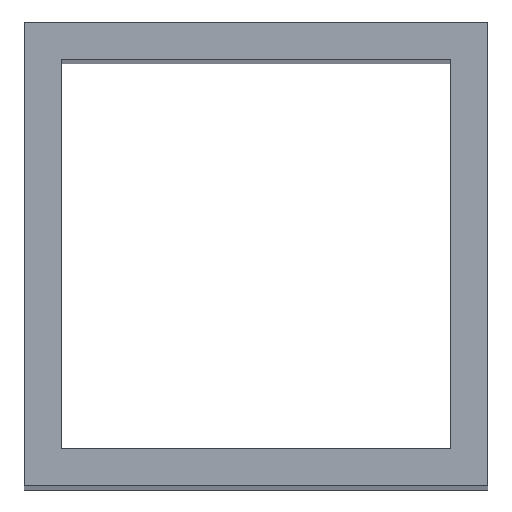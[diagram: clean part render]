
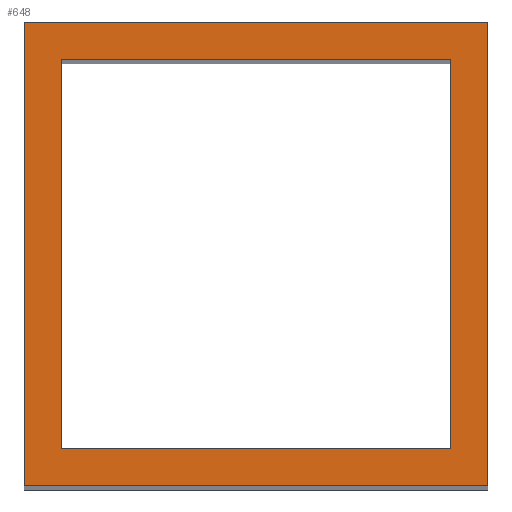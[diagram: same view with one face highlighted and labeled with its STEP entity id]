
A CAD part, top view. The second image highlights one B-rep face of the part: STEP entity #648.
In plain terms, the highlighted planar face has unit normal (0, 0, 1).
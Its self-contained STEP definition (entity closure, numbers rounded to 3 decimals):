
#24 = VERTEX_POINT('',#25);
#25 = CARTESIAN_POINT('',(-75.,-75.,850.));
#32 = PLANE('',#33);
#33 = AXIS2_PLACEMENT_3D('',#34,#35,#36);
#34 = CARTESIAN_POINT('',(-75.,-75.,0.));
#35 = DIRECTION('',(0.,1.,0.));
#36 = DIRECTION('',(1.,0.,0.));
#44 = PLANE('',#45);
#45 = AXIS2_PLACEMENT_3D('',#46,#47,#48);
#46 = CARTESIAN_POINT('',(-75.,75.,0.));
#47 = DIRECTION('',(1.,0.,-0.));
#48 = DIRECTION('',(0.,-1.,0.));
#56 = EDGE_CURVE('',#24,#57,#59,.T.);
#57 = VERTEX_POINT('',#58);
#58 = CARTESIAN_POINT('',(75.,-75.,850.));
#59 = SURFACE_CURVE('',#60,(#64,#71),.PCURVE_S1.);
#60 = LINE('',#61,#62);
#61 = CARTESIAN_POINT('',(-75.,-75.,850.));
#62 = VECTOR('',#63,1.);
#63 = DIRECTION('',(1.,0.,0.));
#64 = PCURVE('',#32,#65);
#65 = DEFINITIONAL_REPRESENTATION('',(#66),#70);
#66 = LINE('',#67,#68);
#67 = CARTESIAN_POINT('',(0.,-850.));
#68 = VECTOR('',#69,1.);
#69 = DIRECTION('',(1.,0.));
#70 = ( GEOMETRIC_REPRESENTATION_CONTEXT(2) 
PARAMETRIC_REPRESENTATION_CONTEXT() REPRESENTATION_CONTEXT('2D SPACE',''
  ) );
#71 = PCURVE('',#72,#77);
#72 = PLANE('',#73);
#73 = AXIS2_PLACEMENT_3D('',#74,#75,#76);
#74 = CARTESIAN_POINT('',(0.,0.,850.));
#75 = DIRECTION('',(0.,0.,1.));
#76 = DIRECTION('',(1.,0.,-0.));
#77 = DEFINITIONAL_REPRESENTATION('',(#78),#82);
#78 = LINE('',#79,#80);
#79 = CARTESIAN_POINT('',(-75.,-75.));
#80 = VECTOR('',#81,1.);
#81 = DIRECTION('',(1.,0.));
#82 = ( GEOMETRIC_REPRESENTATION_CONTEXT(2) 
PARAMETRIC_REPRESENTATION_CONTEXT() REPRESENTATION_CONTEXT('2D SPACE',''
  ) );
#100 = PLANE('',#101);
#101 = AXIS2_PLACEMENT_3D('',#102,#103,#104);
#102 = CARTESIAN_POINT('',(75.,-75.,0.));
#103 = DIRECTION('',(-1.,0.,0.));
#104 = DIRECTION('',(0.,1.,0.));
#142 = EDGE_CURVE('',#57,#143,#145,.T.);
#143 = VERTEX_POINT('',#144);
#144 = CARTESIAN_POINT('',(75.,75.,850.));
#145 = SURFACE_CURVE('',#146,(#150,#157),.PCURVE_S1.);
#146 = LINE('',#147,#148);
#147 = CARTESIAN_POINT('',(75.,-75.,850.));
#148 = VECTOR('',#149,1.);
#149 = DIRECTION('',(0.,1.,0.));
#150 = PCURVE('',#100,#151);
#151 = DEFINITIONAL_REPRESENTATION('',(#152),#156);
#152 = LINE('',#153,#154);
#153 = CARTESIAN_POINT('',(0.,-850.));
#154 = VECTOR('',#155,1.);
#155 = DIRECTION('',(1.,0.));
#156 = ( GEOMETRIC_REPRESENTATION_CONTEXT(2) 
PARAMETRIC_REPRESENTATION_CONTEXT() REPRESENTATION_CONTEXT('2D SPACE',''
  ) );
#157 = PCURVE('',#72,#158);
#158 = DEFINITIONAL_REPRESENTATION('',(#159),#163);
#159 = LINE('',#160,#161);
#160 = CARTESIAN_POINT('',(75.,-75.));
#161 = VECTOR('',#162,1.);
#162 = DIRECTION('',(0.,1.));
#163 = ( GEOMETRIC_REPRESENTATION_CONTEXT(2) 
PARAMETRIC_REPRESENTATION_CONTEXT() REPRESENTATION_CONTEXT('2D SPACE',''
  ) );
#181 = PLANE('',#182);
#182 = AXIS2_PLACEMENT_3D('',#183,#184,#185);
#183 = CARTESIAN_POINT('',(75.,75.,0.));
#184 = DIRECTION('',(0.,-1.,0.));
#185 = DIRECTION('',(-1.,0.,0.));
#218 = EDGE_CURVE('',#143,#219,#221,.T.);
#219 = VERTEX_POINT('',#220);
#220 = CARTESIAN_POINT('',(-75.,75.,850.));
#221 = SURFACE_CURVE('',#222,(#226,#233),.PCURVE_S1.);
#222 = LINE('',#223,#224);
#223 = CARTESIAN_POINT('',(75.,75.,850.));
#224 = VECTOR('',#225,1.);
#225 = DIRECTION('',(-1.,0.,0.));
#226 = PCURVE('',#181,#227);
#227 = DEFINITIONAL_REPRESENTATION('',(#228),#232);
#228 = LINE('',#229,#230);
#229 = CARTESIAN_POINT('',(0.,-850.));
#230 = VECTOR('',#231,1.);
#231 = DIRECTION('',(1.,0.));
#232 = ( GEOMETRIC_REPRESENTATION_CONTEXT(2) 
PARAMETRIC_REPRESENTATION_CONTEXT() REPRESENTATION_CONTEXT('2D SPACE',''
  ) );
#233 = PCURVE('',#72,#234);
#234 = DEFINITIONAL_REPRESENTATION('',(#235),#239);
#235 = LINE('',#236,#237);
#236 = CARTESIAN_POINT('',(75.,75.));
#237 = VECTOR('',#238,1.);
#238 = DIRECTION('',(-1.,0.));
#239 = ( GEOMETRIC_REPRESENTATION_CONTEXT(2) 
PARAMETRIC_REPRESENTATION_CONTEXT() REPRESENTATION_CONTEXT('2D SPACE',''
  ) );
#289 = EDGE_CURVE('',#219,#24,#290,.T.);
#290 = SURFACE_CURVE('',#291,(#295,#302),.PCURVE_S1.);
#291 = LINE('',#292,#293);
#292 = CARTESIAN_POINT('',(-75.,75.,850.));
#293 = VECTOR('',#294,1.);
#294 = DIRECTION('',(0.,-1.,0.));
#295 = PCURVE('',#44,#296);
#296 = DEFINITIONAL_REPRESENTATION('',(#297),#301);
#297 = LINE('',#298,#299);
#298 = CARTESIAN_POINT('',(0.,-850.));
#299 = VECTOR('',#300,1.);
#300 = DIRECTION('',(1.,0.));
#301 = ( GEOMETRIC_REPRESENTATION_CONTEXT(2) 
PARAMETRIC_REPRESENTATION_CONTEXT() REPRESENTATION_CONTEXT('2D SPACE',''
  ) );
#302 = PCURVE('',#72,#303);
#303 = DEFINITIONAL_REPRESENTATION('',(#304),#308);
#304 = LINE('',#305,#306);
#305 = CARTESIAN_POINT('',(-75.,75.));
#306 = VECTOR('',#307,1.);
#307 = DIRECTION('',(0.,-1.));
#308 = ( GEOMETRIC_REPRESENTATION_CONTEXT(2) 
PARAMETRIC_REPRESENTATION_CONTEXT() REPRESENTATION_CONTEXT('2D SPACE',''
  ) );
#338 = VERTEX_POINT('',#339);
#339 = CARTESIAN_POINT('',(-63.,-63.,850.));
#346 = PLANE('',#347);
#347 = AXIS2_PLACEMENT_3D('',#348,#349,#350);
#348 = CARTESIAN_POINT('',(-63.,-63.,0.));
#349 = DIRECTION('',(0.,1.,0.));
#350 = DIRECTION('',(1.,0.,0.));
#358 = PLANE('',#359);
#359 = AXIS2_PLACEMENT_3D('',#360,#361,#362);
#360 = CARTESIAN_POINT('',(-63.,63.,0.));
#361 = DIRECTION('',(1.,0.,-0.));
#362 = DIRECTION('',(0.,-1.,0.));
#370 = EDGE_CURVE('',#338,#371,#373,.T.);
#371 = VERTEX_POINT('',#372);
#372 = CARTESIAN_POINT('',(63.,-63.,850.));
#373 = SURFACE_CURVE('',#374,(#378,#385),.PCURVE_S1.);
#374 = LINE('',#375,#376);
#375 = CARTESIAN_POINT('',(-63.,-63.,850.));
#376 = VECTOR('',#377,1.);
#377 = DIRECTION('',(1.,0.,0.));
#378 = PCURVE('',#346,#379);
#379 = DEFINITIONAL_REPRESENTATION('',(#380),#384);
#380 = LINE('',#381,#382);
#381 = CARTESIAN_POINT('',(0.,-850.));
#382 = VECTOR('',#383,1.);
#383 = DIRECTION('',(1.,0.));
#384 = ( GEOMETRIC_REPRESENTATION_CONTEXT(2) 
PARAMETRIC_REPRESENTATION_CONTEXT() REPRESENTATION_CONTEXT('2D SPACE',''
  ) );
#385 = PCURVE('',#72,#386);
#386 = DEFINITIONAL_REPRESENTATION('',(#387),#391);
#387 = LINE('',#388,#389);
#388 = CARTESIAN_POINT('',(-63.,-63.));
#389 = VECTOR('',#390,1.);
#390 = DIRECTION('',(1.,0.));
#391 = ( GEOMETRIC_REPRESENTATION_CONTEXT(2) 
PARAMETRIC_REPRESENTATION_CONTEXT() REPRESENTATION_CONTEXT('2D SPACE',''
  ) );
#409 = PLANE('',#410);
#410 = AXIS2_PLACEMENT_3D('',#411,#412,#413);
#411 = CARTESIAN_POINT('',(63.,-63.,0.));
#412 = DIRECTION('',(-1.,0.,0.));
#413 = DIRECTION('',(0.,1.,0.));
#446 = EDGE_CURVE('',#371,#447,#449,.T.);
#447 = VERTEX_POINT('',#448);
#448 = CARTESIAN_POINT('',(63.,63.,850.));
#449 = SURFACE_CURVE('',#450,(#454,#461),.PCURVE_S1.);
#450 = LINE('',#451,#452);
#451 = CARTESIAN_POINT('',(63.,-63.,850.));
#452 = VECTOR('',#453,1.);
#453 = DIRECTION('',(0.,1.,0.));
#454 = PCURVE('',#409,#455);
#455 = DEFINITIONAL_REPRESENTATION('',(#456),#460);
#456 = LINE('',#457,#458);
#457 = CARTESIAN_POINT('',(0.,-850.));
#458 = VECTOR('',#459,1.);
#459 = DIRECTION('',(1.,0.));
#460 = ( GEOMETRIC_REPRESENTATION_CONTEXT(2) 
PARAMETRIC_REPRESENTATION_CONTEXT() REPRESENTATION_CONTEXT('2D SPACE',''
  ) );
#461 = PCURVE('',#72,#462);
#462 = DEFINITIONAL_REPRESENTATION('',(#463),#467);
#463 = LINE('',#464,#465);
#464 = CARTESIAN_POINT('',(63.,-63.));
#465 = VECTOR('',#466,1.);
#466 = DIRECTION('',(0.,1.));
#467 = ( GEOMETRIC_REPRESENTATION_CONTEXT(2) 
PARAMETRIC_REPRESENTATION_CONTEXT() REPRESENTATION_CONTEXT('2D SPACE',''
  ) );
#485 = PLANE('',#486);
#486 = AXIS2_PLACEMENT_3D('',#487,#488,#489);
#487 = CARTESIAN_POINT('',(63.,63.,0.));
#488 = DIRECTION('',(0.,-1.,0.));
#489 = DIRECTION('',(-1.,0.,0.));
#522 = EDGE_CURVE('',#447,#523,#525,.T.);
#523 = VERTEX_POINT('',#524);
#524 = CARTESIAN_POINT('',(-63.,63.,850.));
#525 = SURFACE_CURVE('',#526,(#530,#537),.PCURVE_S1.);
#526 = LINE('',#527,#528);
#527 = CARTESIAN_POINT('',(63.,63.,850.));
#528 = VECTOR('',#529,1.);
#529 = DIRECTION('',(-1.,0.,0.));
#530 = PCURVE('',#485,#531);
#531 = DEFINITIONAL_REPRESENTATION('',(#532),#536);
#532 = LINE('',#533,#534);
#533 = CARTESIAN_POINT('',(0.,-850.));
#534 = VECTOR('',#535,1.);
#535 = DIRECTION('',(1.,0.));
#536 = ( GEOMETRIC_REPRESENTATION_CONTEXT(2) 
PARAMETRIC_REPRESENTATION_CONTEXT() REPRESENTATION_CONTEXT('2D SPACE',''
  ) );
#537 = PCURVE('',#72,#538);
#538 = DEFINITIONAL_REPRESENTATION('',(#539),#543);
#539 = LINE('',#540,#541);
#540 = CARTESIAN_POINT('',(63.,63.));
#541 = VECTOR('',#542,1.);
#542 = DIRECTION('',(-1.,0.));
#543 = ( GEOMETRIC_REPRESENTATION_CONTEXT(2) 
PARAMETRIC_REPRESENTATION_CONTEXT() REPRESENTATION_CONTEXT('2D SPACE',''
  ) );
#593 = EDGE_CURVE('',#523,#338,#594,.T.);
#594 = SURFACE_CURVE('',#595,(#599,#606),.PCURVE_S1.);
#595 = LINE('',#596,#597);
#596 = CARTESIAN_POINT('',(-63.,63.,850.));
#597 = VECTOR('',#598,1.);
#598 = DIRECTION('',(0.,-1.,0.));
#599 = PCURVE('',#358,#600);
#600 = DEFINITIONAL_REPRESENTATION('',(#601),#605);
#601 = LINE('',#602,#603);
#602 = CARTESIAN_POINT('',(0.,-850.));
#603 = VECTOR('',#604,1.);
#604 = DIRECTION('',(1.,0.));
#605 = ( GEOMETRIC_REPRESENTATION_CONTEXT(2) 
PARAMETRIC_REPRESENTATION_CONTEXT() REPRESENTATION_CONTEXT('2D SPACE',''
  ) );
#606 = PCURVE('',#72,#607);
#607 = DEFINITIONAL_REPRESENTATION('',(#608),#612);
#608 = LINE('',#609,#610);
#609 = CARTESIAN_POINT('',(-63.,63.));
#610 = VECTOR('',#611,1.);
#611 = DIRECTION('',(0.,-1.));
#612 = ( GEOMETRIC_REPRESENTATION_CONTEXT(2) 
PARAMETRIC_REPRESENTATION_CONTEXT() REPRESENTATION_CONTEXT('2D SPACE',''
  ) );
#648 = ADVANCED_FACE('',(#649,#655),#72,.T.);
#649 = FACE_BOUND('',#650,.T.);
#650 = EDGE_LOOP('',(#651,#652,#653,#654));
#651 = ORIENTED_EDGE('',*,*,#56,.T.);
#652 = ORIENTED_EDGE('',*,*,#142,.T.);
#653 = ORIENTED_EDGE('',*,*,#218,.T.);
#654 = ORIENTED_EDGE('',*,*,#289,.T.);
#655 = FACE_BOUND('',#656,.F.);
#656 = EDGE_LOOP('',(#657,#658,#659,#660));
#657 = ORIENTED_EDGE('',*,*,#370,.T.);
#658 = ORIENTED_EDGE('',*,*,#446,.T.);
#659 = ORIENTED_EDGE('',*,*,#522,.T.);
#660 = ORIENTED_EDGE('',*,*,#593,.T.);
